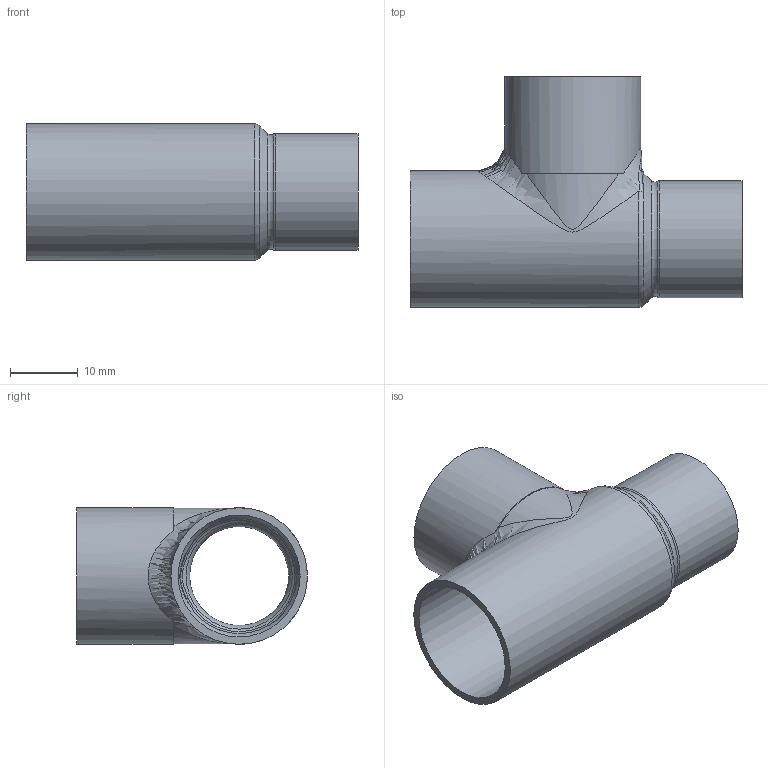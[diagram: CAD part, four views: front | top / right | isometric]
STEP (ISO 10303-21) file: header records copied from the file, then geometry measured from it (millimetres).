
FILE_DESCRIPTION(/* description */ (''),/* implementation_level */ '2;1');
FILE_NAME(/* name */ 'G:\Technik\Management\ontwikkeling\Ontwikkeling + Leveringsdokumenten + proefberichten\Sanha Ternat\Ternat 2024\Step files\5130181815_3d gem.stp',/* time_stamp */ '2024-02-29T09:05:35+01:00',/* author */ ('vdvijverd'),/* organization */ (''),/* preprocessor_version */ 'ST-DEVELOPER v19',/* originating_system */ 'Autodesk Inventor 2023',/* authorisation */ '');
FILE_SCHEMA (('AUTOMOTIVE_DESIGN { 1 0 10303 214 3 1 1 }'));
Length unit declared in the file: millimetre
Products named in the file (1): 5130181815_3d gem
Bounding box: 49 x 34.08 x 20.15 mm (x, y, z)
Volume: 4463.4 mm3; surface area: 7234.7 mm2
Topology: 1 solids, 1 shells, 35 faces, 90 edges, 56 vertices
Faces by surface type: cylinder 11, torus 7, cone 7, bspline 6, plane 4
Full cylindrical faces by diameter (mm): 15 x1, 17.25 x1, 18 x2, 20.1 x1, 20.15 x1
Entity records: 1827 total; most frequent: CARTESIAN_POINT 959, ORIENTED_EDGE 180, DIRECTION 169, EDGE_CURVE 90, AXIS2_PLACEMENT_3D 79, VERTEX_POINT 56, CIRCLE 49, EDGE_LOOP 38
